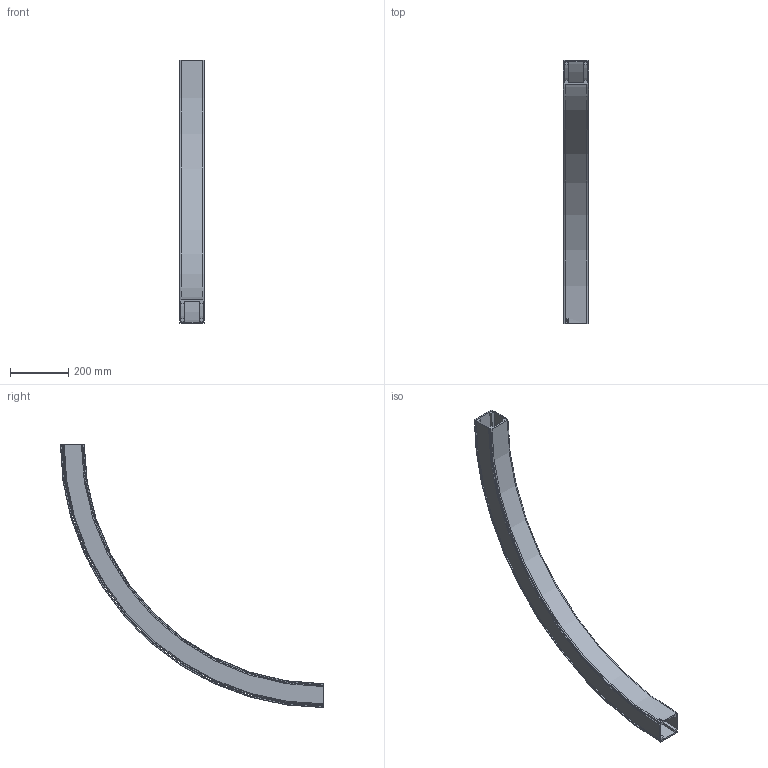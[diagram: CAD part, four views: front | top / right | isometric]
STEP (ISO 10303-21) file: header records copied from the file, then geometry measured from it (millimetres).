
FILE_DESCRIPTION(/* description */ ('VERTIKALKURVA S530 R860'),/* implementation_level */ '2;1');
FILE_NAME(/* name */ '530-5695+830-2000-UPP-01.stp',/* time_stamp */ '2022-09-21T07:20:31+02:00',/* author */ ('Mathias.Dore'),/* organization */ ('CARRYLINE'),/* preprocessor_version */ 'ST-DEVELOPER v19.2',/* originating_system */ 'Autodesk Inventor 2023',/* authorisation */ '');
FILE_SCHEMA (('AUTOMOTIVE_DESIGN { 1 0 10303 214 3 1 1 }'));
Length unit declared in the file: millimetre
Products named in the file (1): 530-5695+830-2000-UPP-01
Bounding box: 86 x 902.5 x 902.5 mm (x, y, z)
Volume: 2007407.8 mm3; surface area: 977743.7 mm2
Topology: 2 solids, 2 shells, 87 faces, 234 edges, 156 vertices
Faces by surface type: plane 40, cylinder 25, bspline 14, cone 4, torus 4
Entity records: 7345 total; most frequent: CARTESIAN_POINT 5146, ORIENTED_EDGE 468, DIRECTION 408, EDGE_CURVE 234, VERTEX_POINT 156, AXIS2_PLACEMENT_3D 141, LINE 126, VECTOR 126
